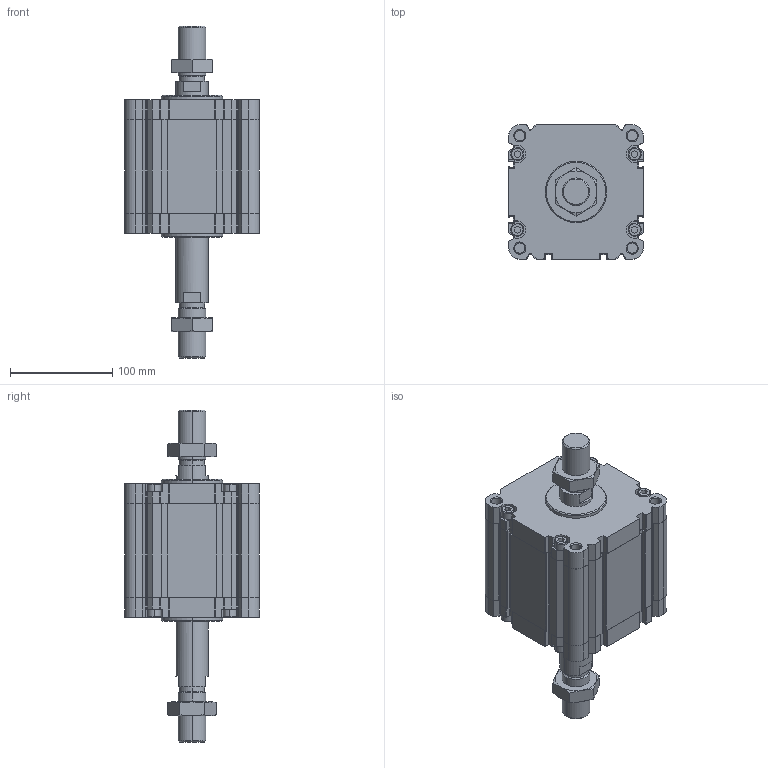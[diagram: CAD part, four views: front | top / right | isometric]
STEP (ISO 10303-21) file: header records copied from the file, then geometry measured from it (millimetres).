
FILE_DESCRIPTION (( 'STEP AP203' ), '1' );
FILE_NAME ('CDVU125-50M-P.STEP', '2020-07-21T16:42:43', ( '' ), ( '' ), 'SwSTEP 2.0', 'SolidWorks 2019', '' );
FILE_SCHEMA (( 'CONFIG_CONTROL_DESIGN' ));
Length unit declared in the file: millimetre
Products named in the file (1): CDVU125-50M-P
Bounding box: 132 x 132 x 325 mm (x, y, z)
Volume: 1781881.6 mm3; surface area: 243751.4 mm2
Topology: 4 solids, 4 shells, 702 faces, 1892 edges, 1230 vertices
Faces by surface type: plane 338, cylinder 280, cone 68, torus 16
Entity records: 22967 total; most frequent: CARTESIAN_POINT 4709, DIRECTION 3930, ORIENTED_EDGE 3776, EDGE_CURVE 1888, AXIS2_PLACEMENT_3D 1363, VERTEX_POINT 1230, VECTOR 1204, LINE 1204
